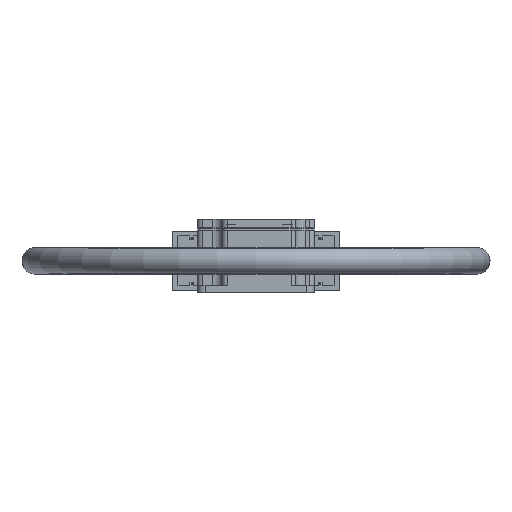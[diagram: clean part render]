
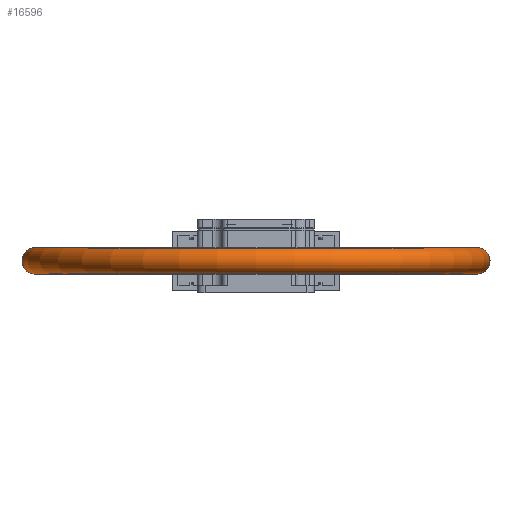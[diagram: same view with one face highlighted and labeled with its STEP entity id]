
A CAD part, left-side view. The second image highlights one B-rep face of the part: STEP entity #16596.
In plain terms, the highlighted toroidal (fillet/blend) face has major radius 90 mm and minor radius 5.4 mm.
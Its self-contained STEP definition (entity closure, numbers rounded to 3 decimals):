
#45=TOROIDAL_SURFACE('',#17508,90.,5.4);
#1870=FACE_OUTER_BOUND('',#2800,.T.);
#2800=EDGE_LOOP('',(#11475,#11476,#11477,#11478));
#6121=CIRCLE('',#17507,5.4);
#6122=CIRCLE('',#17509,84.6);
#6123=CIRCLE('',#17510,5.4);
#6717=VERTEX_POINT('',#23988);
#6718=VERTEX_POINT('',#23992);
#8513=EDGE_CURVE('',#6717,#6717,#6121,.T.);
#8514=EDGE_CURVE('',#6717,#6718,#6122,.T.);
#8515=EDGE_CURVE('',#6718,#6718,#6123,.T.);
#11475=ORIENTED_EDGE('',*,*,#8513,.T.);
#11476=ORIENTED_EDGE('',*,*,#8514,.T.);
#11477=ORIENTED_EDGE('',*,*,#8515,.F.);
#11478=ORIENTED_EDGE('',*,*,#8514,.F.);
#16596=ADVANCED_FACE('',(#1870),#45,.T.);
#17507=AXIS2_PLACEMENT_3D('',#23990,#18878,#18879);
#17508=AXIS2_PLACEMENT_3D('',#23991,#18880,#18881);
#17509=AXIS2_PLACEMENT_3D('',#23993,#18882,#18883);
#17510=AXIS2_PLACEMENT_3D('',#23994,#18884,#18885);
#18878=DIRECTION('center_axis',(-0.994,0.106,0.));
#18879=DIRECTION('ref_axis',(-0.106,-0.994,0.));
#18880=DIRECTION('center_axis',(0.,0.,
-1.));
#18881=DIRECTION('ref_axis',(-1.,0.,0.));
#18882=DIRECTION('center_axis',(0.,0.,
1.));
#18883=DIRECTION('ref_axis',(-1.,0.,0.));
#18884=DIRECTION('center_axis',(0.994,0.106,0.));
#18885=DIRECTION('ref_axis',(-0.106,0.994,0.));
#23988=CARTESIAN_POINT('',(-332.57,84.123,13.));
#23990=CARTESIAN_POINT('Origin',(-331.997,89.492,13.));
#23991=CARTESIAN_POINT('Origin',(-341.545,0.,
13.));
#23992=CARTESIAN_POINT('',(-332.57,-84.123,13.));
#23993=CARTESIAN_POINT('Origin',(-341.545,0.,
13.));
#23994=CARTESIAN_POINT('Origin',(-331.997,-89.492,13.));
